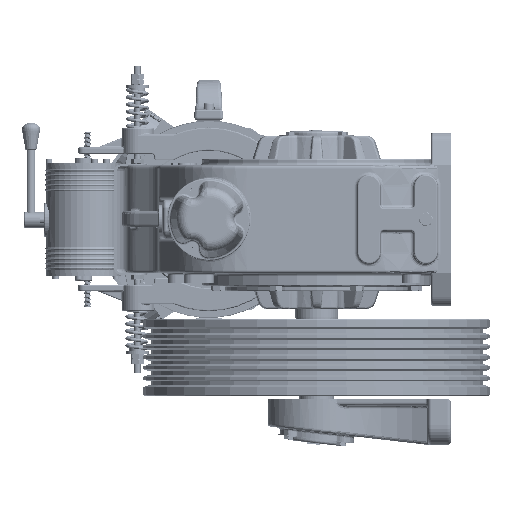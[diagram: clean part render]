
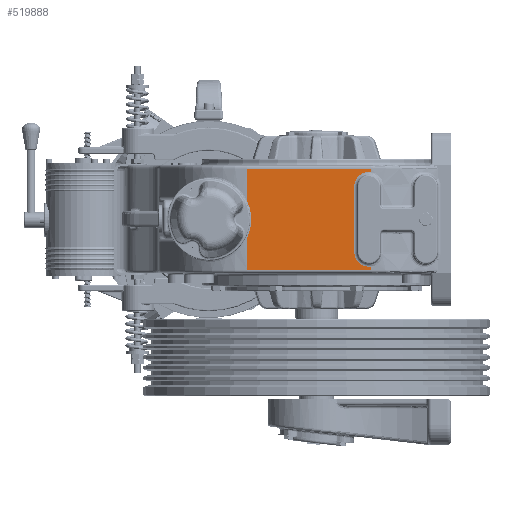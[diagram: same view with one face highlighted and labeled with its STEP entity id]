
A CAD part, left-side view. The second image highlights one B-rep face of the part: STEP entity #519888.
In plain terms, the highlighted planar face has unit normal (-1, 0, 0).
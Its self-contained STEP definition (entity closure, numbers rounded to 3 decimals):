
#8311 = CARTESIAN_POINT ( 'NONE',  ( -607.83, -161.852, 82.5 ) ) ;
#20344 = DIRECTION ( 'NONE',  ( 0., 1., 0. ) ) ;
#21773 = CARTESIAN_POINT ( 'NONE',  ( -607.83, 86.168, 0. ) ) ;
#23747 = ORIENTED_EDGE ( 'NONE', *, *, #212952, .T. ) ;
#32909 = DIRECTION ( 'NONE',  ( 0., 0., -1. ) ) ;
#40462 = EDGE_CURVE ( 'NONE', #447722, #463410, #213591, .T. ) ;
#40996 = ORIENTED_EDGE ( 'NONE', *, *, #289539, .T. ) ;
#45567 = CARTESIAN_POINT ( 'NONE',  ( -607.83, -136.332, 50. ) ) ;
#55645 = CARTESIAN_POINT ( 'NONE',  ( -607.83, 27.267, -77.5 ) ) ;
#56986 = CARTESIAN_POINT ( 'NONE',  ( -607.83, -136.332, -50. ) ) ;
#60958 = CIRCLE ( 'NONE', #389391, 22.5 ) ;
#64453 = CARTESIAN_POINT ( 'NONE',  ( -607.83, -161.852, 77.5 ) ) ;
#70065 = ORIENTED_EDGE ( 'NONE', *, *, #134628, .T. ) ;
#71974 = DIRECTION ( 'NONE',  ( 1., 0., 0. ) ) ;
#82473 = DIRECTION ( 'NONE',  ( 0., 0., -1. ) ) ;
#85180 = CARTESIAN_POINT ( 'NONE',  ( -607.83, -161.852, -77.5 ) ) ;
#85926 = CIRCLE ( 'NONE', #358152, 22.5 ) ;
#126230 = CARTESIAN_POINT ( 'NONE',  ( -607.83, -158.832, -72.5 ) ) ;
#127527 = CIRCLE ( 'NONE', #380820, 22.5 ) ;
#129470 = DIRECTION ( 'NONE',  ( 1., 0., 0. ) ) ;
#134628 = EDGE_CURVE ( 'NONE', #286330, #463410, #85926, .T. ) ;
#139568 = DIRECTION ( 'NONE',  ( 0., 0., 1. ) ) ;
#156093 = VERTEX_POINT ( 'NONE', #56986 ) ;
#160758 = ORIENTED_EDGE ( 'NONE', *, *, #298399, .T. ) ;
#164276 = LINE ( 'NONE', #431590, #340996 ) ;
#166389 = CARTESIAN_POINT ( 'NONE',  ( -607.83, 27.267, 82.5 ) ) ;
#195452 = CARTESIAN_POINT ( 'NONE',  ( -607.83, -161.852, 72.296 ) ) ;
#198306 = CARTESIAN_POINT ( 'NONE',  ( -607.83, -158.832, 50. ) ) ;
#198835 = EDGE_LOOP ( 'NONE', ( #40996, #160758, #432562, #554777, #494410, #388705, #329913, #270903, #70065, #376143, #23747 ) ) ;
#201266 = CIRCLE ( 'NONE', #529526, 65. ) ;
#212952 = EDGE_CURVE ( 'NONE', #447722, #522991, #466877, .T. ) ;
#213591 = LINE ( 'NONE', #425276, #384445 ) ;
#229180 = EDGE_CURVE ( 'NONE', #267369, #250384, #127527, .T. ) ;
#233700 = DIRECTION ( 'NONE',  ( 1., 0., 0. ) ) ;
#250384 = VERTEX_POINT ( 'NONE', #126230 ) ;
#262816 = CARTESIAN_POINT ( 'NONE',  ( -607.83, -161.852, 82.5 ) ) ;
#266124 = EDGE_CURVE ( 'NONE', #329977, #455260, #308535, .T. ) ;
#267369 = VERTEX_POINT ( 'NONE', #568401 ) ;
#267809 = DIRECTION ( 'NONE',  ( 1., 0., 0. ) ) ;
#270903 = ORIENTED_EDGE ( 'NONE', *, *, #495370, .T. ) ;
#273872 = VECTOR ( 'NONE', #430828, 1000. ) ;
#286330 = VERTEX_POINT ( 'NONE', #441425 ) ;
#287372 = LINE ( 'NONE', #8311, #501175 ) ;
#289539 = EDGE_CURVE ( 'NONE', #522991, #508484, #295752, .T. ) ;
#295752 = LINE ( 'NONE', #166389, #273872 ) ;
#295986 = DIRECTION ( 'NONE',  ( 0., 0., -1. ) ) ;
#297664 = CARTESIAN_POINT ( 'NONE',  ( -607.83, -158.832, -50. ) ) ;
#298399 = EDGE_CURVE ( 'NONE', #508484, #460922, #201266, .T. ) ;
#308535 = LINE ( 'NONE', #85180, #349615 ) ;
#309916 = CARTESIAN_POINT ( 'NONE',  ( -607.83, 27.267, -27.489 ) ) ;
#316763 = AXIS2_PLACEMENT_3D ( 'NONE', #262816, #71974, #392096 ) ;
#318810 = VECTOR ( 'NONE', #139568, 1000. ) ;
#329913 = ORIENTED_EDGE ( 'NONE', *, *, #419421, .T. ) ;
#329977 = VERTEX_POINT ( 'NONE', #55645 ) ;
#333404 = DIRECTION ( 'NONE',  ( 0., 0., -1. ) ) ;
#340346 = CARTESIAN_POINT ( 'NONE',  ( -607.83, 27.267, 77.5 ) ) ;
#340996 = VECTOR ( 'NONE', #343427, 1000. ) ;
#343427 = DIRECTION ( 'NONE',  ( 0., 0., -1. ) ) ;
#346798 = DIRECTION ( 'NONE',  ( 0., -1., 0. ) ) ;
#349615 = VECTOR ( 'NONE', #346798, 1000. ) ;
#350922 = FACE_OUTER_BOUND ( 'NONE', #198835, .T. ) ;
#358152 = AXIS2_PLACEMENT_3D ( 'NONE', #198306, #233700, #333404 ) ;
#376143 = ORIENTED_EDGE ( 'NONE', *, *, #40462, .F. ) ;
#380820 = AXIS2_PLACEMENT_3D ( 'NONE', #297664, #564935, #517961 ) ;
#384445 = VECTOR ( 'NONE', #295986, 1000. ) ;
#388705 = ORIENTED_EDGE ( 'NONE', *, *, #229180, .T. ) ;
#389391 = AXIS2_PLACEMENT_3D ( 'NONE', #435410, #267809, #32909 ) ;
#392096 = DIRECTION ( 'NONE',  ( 0., 0., -1. ) ) ;
#394369 = VECTOR ( 'NONE', #20344, 1000. ) ;
#419421 = EDGE_CURVE ( 'NONE', #250384, #156093, #60958, .T. ) ;
#425276 = CARTESIAN_POINT ( 'NONE',  ( -607.83, -161.852, 82.5 ) ) ;
#430828 = DIRECTION ( 'NONE',  ( 0., 0., -1. ) ) ;
#431590 = CARTESIAN_POINT ( 'NONE',  ( -607.83, 27.267, 82.5 ) ) ;
#432562 = ORIENTED_EDGE ( 'NONE', *, *, #577545, .T. ) ;
#435410 = CARTESIAN_POINT ( 'NONE',  ( -607.83, -158.832, -50. ) ) ;
#441425 = CARTESIAN_POINT ( 'NONE',  ( -607.83, -136.332, 50. ) ) ;
#447722 = VERTEX_POINT ( 'NONE', #462873 ) ;
#455260 = VERTEX_POINT ( 'NONE', #505330 ) ;
#457720 = CARTESIAN_POINT ( 'NONE',  ( -607.83, 27.267, 27.489 ) ) ;
#460922 = VERTEX_POINT ( 'NONE', #309916 ) ;
#462873 = CARTESIAN_POINT ( 'NONE',  ( -607.83, -161.852, 77.5 ) ) ;
#463410 = VERTEX_POINT ( 'NONE', #195452 ) ;
#466877 = LINE ( 'NONE', #64453, #394369 ) ;
#476934 = EDGE_CURVE ( 'NONE', #267369, #455260, #287372, .T. ) ;
#494410 = ORIENTED_EDGE ( 'NONE', *, *, #476934, .F. ) ;
#495370 = EDGE_CURVE ( 'NONE', #156093, #286330, #500735, .T. ) ;
#500735 = LINE ( 'NONE', #45567, #318810 ) ;
#501175 = VECTOR ( 'NONE', #554611, 1000. ) ;
#505330 = CARTESIAN_POINT ( 'NONE',  ( -607.83, -161.852, -77.5 ) ) ;
#508484 = VERTEX_POINT ( 'NONE', #457720 ) ;
#517961 = DIRECTION ( 'NONE',  ( 0., 0., -1. ) ) ;
#519888 = ADVANCED_FACE ( 'NONE', ( #350922 ), #530070, .F. ) ;
#522991 = VERTEX_POINT ( 'NONE', #340346 ) ;
#529526 = AXIS2_PLACEMENT_3D ( 'NONE', #21773, #129470, #82473 ) ;
#530070 = PLANE ( 'NONE',  #316763 ) ;
#554611 = DIRECTION ( 'NONE',  ( 0., 0., -1. ) ) ;
#554777 = ORIENTED_EDGE ( 'NONE', *, *, #266124, .T. ) ;
#564935 = DIRECTION ( 'NONE',  ( 1., 0., 0. ) ) ;
#568401 = CARTESIAN_POINT ( 'NONE',  ( -607.83, -161.852, -72.296 ) ) ;
#577545 = EDGE_CURVE ( 'NONE', #460922, #329977, #164276, .T. ) ;
